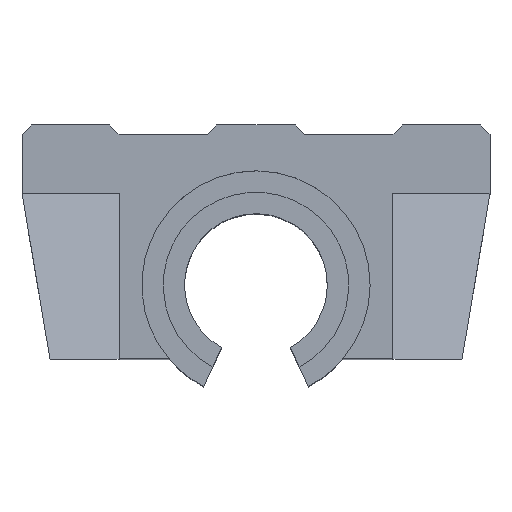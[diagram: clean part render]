
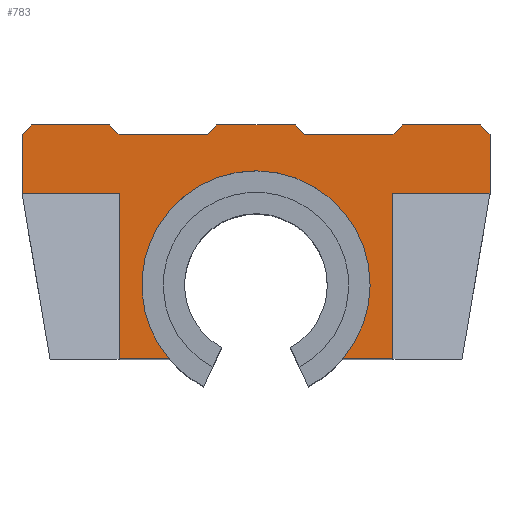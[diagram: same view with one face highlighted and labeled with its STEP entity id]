
A CAD part, top view. The second image highlights one B-rep face of the part: STEP entity #783.
In plain terms, the highlighted planar face has unit normal (0, 0, 1).
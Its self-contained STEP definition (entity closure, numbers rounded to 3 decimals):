
#93=CARTESIAN_POINT('',(-15.224,12.97,62.0));
#94=VERTEX_POINT('',#93);
#110=CARTESIAN_POINT('',(15.224,-12.97,62.));
#111=VERTEX_POINT('',#110);
#118=CARTESIAN_POINT('',(0.0,0.0,62.0));
#119=DIRECTION('',(0.0,0.0,1.0));
#120=DIRECTION('',(-0.761,0.649,0.0));
#121=AXIS2_PLACEMENT_3D('',#118,#119,#120);
#122=CIRCLE('',#121,20.);
#123=EDGE_CURVE('',#111,#94,#122,.T.);
#467=CARTESIAN_POINT('',(-24.,16.03,62.));
#468=VERTEX_POINT('',#467);
#475=CARTESIAN_POINT('',(-41.,16.03,62.));
#476=VERTEX_POINT('',#475);
#477=CARTESIAN_POINT('',(-41.,16.03,62.));
#478=DIRECTION('',(1.0,0.0,0.0));
#479=VECTOR('',#478,17.);
#480=LINE('',#477,#479);
#481=EDGE_CURVE('',#476,#468,#480,.T.);
#509=CARTESIAN_POINT('',(-24.,-12.97,62.));
#510=VERTEX_POINT('',#509);
#517=CARTESIAN_POINT('',(-24.,16.03,62.));
#518=DIRECTION('',(0.0,-1.0,0.0));
#519=VECTOR('',#518,29.);
#520=LINE('',#517,#519);
#521=EDGE_CURVE('',#468,#510,#520,.T.);
#632=CARTESIAN_POINT('',(0.,9.452,62.));
#633=DIRECTION('',(0.0,0.0,1.0));
#634=DIRECTION('',(1.0,0.0,0.0));
#635=AXIS2_PLACEMENT_3D('',#632,#633,#634);
#636=PLANE('',#635);
#637=ORIENTED_EDGE('',*,*,#481,.T.);
#638=ORIENTED_EDGE('',*,*,#521,.T.);
#639=CARTESIAN_POINT('',(-15.224,-12.97,62.));
#640=VERTEX_POINT('',#639);
#641=CARTESIAN_POINT('',(-15.224,-12.97,62.));
#642=DIRECTION('',(-1.0,0.0,0.0));
#643=VECTOR('',#642,8.776);
#644=LINE('',#641,#643);
#645=EDGE_CURVE('',#640,#510,#644,.T.);
#646=ORIENTED_EDGE('',*,*,#645,.F.);
#647=CARTESIAN_POINT('',(0.0,0.0,62.0));
#648=DIRECTION('',(0.0,0.0,1.0));
#649=DIRECTION('',(-0.761,0.649,0.0));
#650=AXIS2_PLACEMENT_3D('',#647,#648,#649);
#651=CIRCLE('',#650,20.);
#652=EDGE_CURVE('',#94,#640,#651,.T.);
#653=ORIENTED_EDGE('',*,*,#652,.F.);
#654=ORIENTED_EDGE('',*,*,#123,.F.);
#655=CARTESIAN_POINT('',(24.,-12.97,62.));
#656=VERTEX_POINT('',#655);
#657=CARTESIAN_POINT('',(24.,-12.97,62.));
#658=DIRECTION('',(-1.0,0.0,0.0));
#659=VECTOR('',#658,8.776);
#660=LINE('',#657,#659);
#661=EDGE_CURVE('',#656,#111,#660,.T.);
#662=ORIENTED_EDGE('',*,*,#661,.F.);
#663=CARTESIAN_POINT('',(24.,16.03,62.));
#664=VERTEX_POINT('',#663);
#665=CARTESIAN_POINT('',(24.,-12.97,62.));
#666=DIRECTION('',(0.0,1.0,0.0));
#667=VECTOR('',#666,29.);
#668=LINE('',#665,#667);
#669=EDGE_CURVE('',#656,#664,#668,.T.);
#670=ORIENTED_EDGE('',*,*,#669,.T.);
#671=CARTESIAN_POINT('',(41.,16.03,62.));
#672=VERTEX_POINT('',#671);
#673=CARTESIAN_POINT('',(24.,16.03,62.));
#674=DIRECTION('',(1.0,0.0,0.0));
#675=VECTOR('',#674,17.);
#676=LINE('',#673,#675);
#677=EDGE_CURVE('',#664,#672,#676,.T.);
#678=ORIENTED_EDGE('',*,*,#677,.T.);
#679=CARTESIAN_POINT('',(41.,26.39,62.0));
#680=VERTEX_POINT('',#679);
#681=CARTESIAN_POINT('',(41.,26.39,62.0));
#682=DIRECTION('',(0.0,-1.0,0.0));
#683=VECTOR('',#682,10.36);
#684=LINE('',#681,#683);
#685=EDGE_CURVE('',#680,#672,#684,.T.);
#686=ORIENTED_EDGE('',*,*,#685,.F.);
#687=CARTESIAN_POINT('',(39.36,28.03,62.0));
#688=VERTEX_POINT('',#687);
#689=CARTESIAN_POINT('',(39.36,28.03,62.0));
#690=DIRECTION('',(0.707,-0.707,0.0));
#691=VECTOR('',#690,2.319);
#692=LINE('',#689,#691);
#693=EDGE_CURVE('',#688,#680,#692,.T.);
#694=ORIENTED_EDGE('',*,*,#693,.F.);
#695=CARTESIAN_POINT('',(25.64,28.03,62.0));
#696=VERTEX_POINT('',#695);
#697=CARTESIAN_POINT('',(25.64,28.03,62.0));
#698=DIRECTION('',(1.0,0.0,0.0));
#699=VECTOR('',#698,13.72);
#700=LINE('',#697,#699);
#701=EDGE_CURVE('',#696,#688,#700,.T.);
#702=ORIENTED_EDGE('',*,*,#701,.F.);
#703=CARTESIAN_POINT('',(24.,26.39,62.));
#704=VERTEX_POINT('',#703);
#705=CARTESIAN_POINT('',(24.,26.39,62.));
#706=DIRECTION('',(0.707,0.707,0.));
#707=VECTOR('',#706,2.319);
#708=LINE('',#705,#707);
#709=EDGE_CURVE('',#704,#696,#708,.T.);
#710=ORIENTED_EDGE('',*,*,#709,.F.);
#711=CARTESIAN_POINT('',(8.5,26.39,62.));
#712=VERTEX_POINT('',#711);
#713=CARTESIAN_POINT('',(24.,26.39,62.));
#714=DIRECTION('',(-1.0,0.0,0.0));
#715=VECTOR('',#714,15.5);
#716=LINE('',#713,#715);
#717=EDGE_CURVE('',#704,#712,#716,.T.);
#718=ORIENTED_EDGE('',*,*,#717,.T.);
#719=CARTESIAN_POINT('',(6.86,28.03,62.0));
#720=VERTEX_POINT('',#719);
#721=CARTESIAN_POINT('',(6.86,28.03,62.0));
#722=DIRECTION('',(0.707,-0.707,0.));
#723=VECTOR('',#722,2.319);
#724=LINE('',#721,#723);
#725=EDGE_CURVE('',#720,#712,#724,.T.);
#726=ORIENTED_EDGE('',*,*,#725,.F.);
#727=CARTESIAN_POINT('',(-6.86,28.03,62.0));
#728=VERTEX_POINT('',#727);
#729=CARTESIAN_POINT('',(-6.86,28.03,62.0));
#730=DIRECTION('',(1.0,0.0,0.0));
#731=VECTOR('',#730,13.72);
#732=LINE('',#729,#731);
#733=EDGE_CURVE('',#728,#720,#732,.T.);
#734=ORIENTED_EDGE('',*,*,#733,.F.);
#735=CARTESIAN_POINT('',(-8.5,26.39,62.));
#736=VERTEX_POINT('',#735);
#737=CARTESIAN_POINT('',(-8.5,26.39,62.));
#738=DIRECTION('',(0.707,0.707,0.));
#739=VECTOR('',#738,2.319);
#740=LINE('',#737,#739);
#741=EDGE_CURVE('',#736,#728,#740,.T.);
#742=ORIENTED_EDGE('',*,*,#741,.F.);
#743=CARTESIAN_POINT('',(-24.,26.39,62.));
#744=VERTEX_POINT('',#743);
#745=CARTESIAN_POINT('',(-8.5,26.39,62.));
#746=DIRECTION('',(-1.0,0.0,0.0));
#747=VECTOR('',#746,15.5);
#748=LINE('',#745,#747);
#749=EDGE_CURVE('',#736,#744,#748,.T.);
#750=ORIENTED_EDGE('',*,*,#749,.T.);
#751=CARTESIAN_POINT('',(-25.64,28.03,62.0));
#752=VERTEX_POINT('',#751);
#753=CARTESIAN_POINT('',(-25.64,28.03,62.0));
#754=DIRECTION('',(0.707,-0.707,0.));
#755=VECTOR('',#754,2.319);
#756=LINE('',#753,#755);
#757=EDGE_CURVE('',#752,#744,#756,.T.);
#758=ORIENTED_EDGE('',*,*,#757,.F.);
#759=CARTESIAN_POINT('',(-39.36,28.03,62.0));
#760=VERTEX_POINT('',#759);
#761=CARTESIAN_POINT('',(-39.36,28.03,62.0));
#762=DIRECTION('',(1.0,0.0,0.0));
#763=VECTOR('',#762,13.72);
#764=LINE('',#761,#763);
#765=EDGE_CURVE('',#760,#752,#764,.T.);
#766=ORIENTED_EDGE('',*,*,#765,.F.);
#767=CARTESIAN_POINT('',(-41.,26.39,62.0));
#768=VERTEX_POINT('',#767);
#769=CARTESIAN_POINT('',(-41.,26.39,62.0));
#770=DIRECTION('',(0.707,0.707,0.0));
#771=VECTOR('',#770,2.319);
#772=LINE('',#769,#771);
#773=EDGE_CURVE('',#768,#760,#772,.T.);
#774=ORIENTED_EDGE('',*,*,#773,.F.);
#775=CARTESIAN_POINT('',(-41.,16.03,62.));
#776=DIRECTION('',(0.0,1.0,0.0));
#777=VECTOR('',#776,10.36);
#778=LINE('',#775,#777);
#779=EDGE_CURVE('',#476,#768,#778,.T.);
#780=ORIENTED_EDGE('',*,*,#779,.F.);
#781=EDGE_LOOP('',(#637,#638,#646,#653,#654,#662,#670,#678,#686,#694,#702,#710,#718,#726,#734,#742,#750,#758,#766,#774,#780));
#782=FACE_OUTER_BOUND('',#781,.T.);
#783=ADVANCED_FACE('',(#782),#636,.T.);
